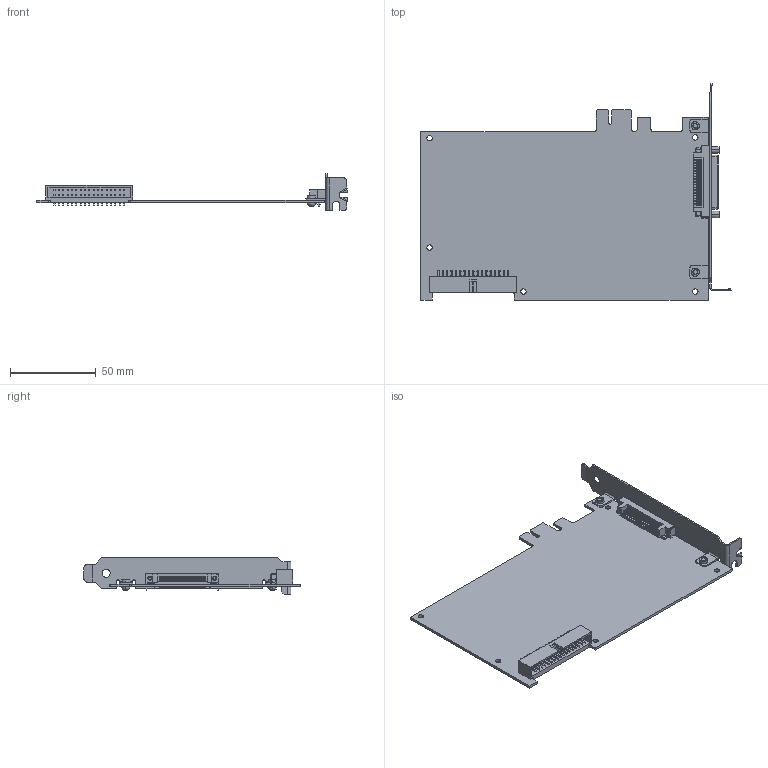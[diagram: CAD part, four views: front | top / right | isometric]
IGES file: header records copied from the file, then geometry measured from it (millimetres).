
Start section:  PTC IGES file: cu_pcie-6536.igs
Global section: file name: cu_pcie-6536.igs; native system: Pro/ENGINEER by Parametric Technology Corporation; preprocessor: 2006080; author: jjorden; organization: Unknown; date: 091228.161306; units: inch
Bounding box: 181.05 x 126.27 x 21.59 mm (x, y, z)
Surface area: 44908.1 mm2 (no closed solid volume)
Topology: 0 solids, 0 shells, 2018 faces, 12422 edges, 12414 vertices
Faces by surface type: bspline 1497, revolution 519, extrusion 2
